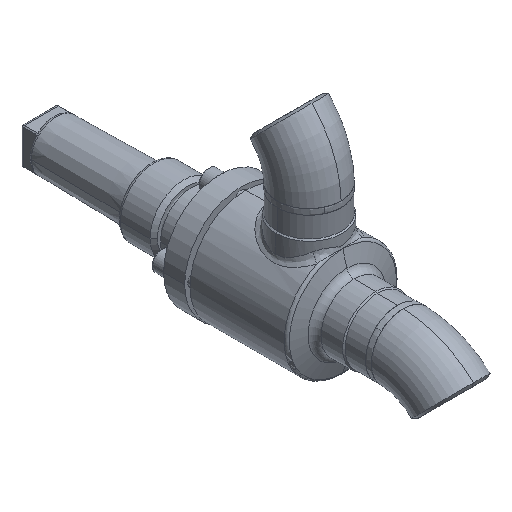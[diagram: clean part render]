
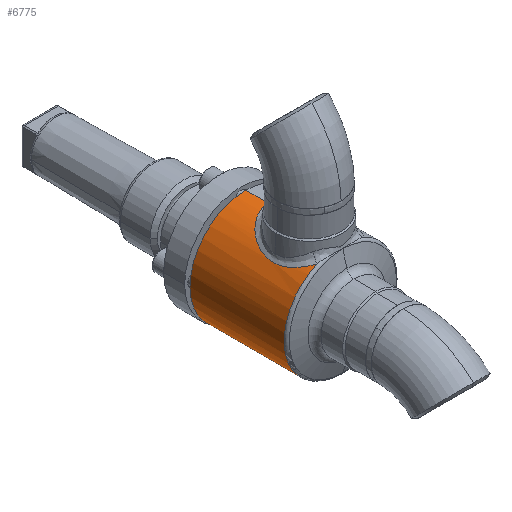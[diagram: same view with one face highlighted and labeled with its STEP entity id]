
A CAD part, isometric view. The second image highlights one B-rep face of the part: STEP entity #6775.
In plain terms, the highlighted cylindrical face has radius 37 mm (diameter 74 mm), a partial arc.
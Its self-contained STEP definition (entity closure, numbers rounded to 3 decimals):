
#16795 = ORIENTED_EDGE ( 'NONE', *, *, #16118, .F. ) ;
#922 = CIRCLE ( 'NONE', #923, 37. ) ;
#923 = AXIS2_PLACEMENT_3D ( 'NONE', #924, #925, #926 ) ;
#924 = CARTESIAN_POINT ( 'NONE',  ( 0., 0., 0. ) ) ;
#925 = DIRECTION ( 'NONE',  ( 0., 1., 0. ) ) ;
#926 = DIRECTION ( 'NONE',  ( 0., 0., 1. ) ) ;
#17746 = ORIENTED_EDGE ( 'NONE', *, *, #10806, .T. ) ;
#1660 = LINE ( 'NONE', #1679, #1680 ) ;
#1679 = CARTESIAN_POINT ( 'NONE',  ( 0., -68., 37. ) ) ;
#1680 = VECTOR ( 'NONE', #1681, 1000. ) ;
#1681 = DIRECTION ( 'NONE',  ( 0., 1., 0. ) ) ;
#18702 = EDGE_CURVE ( 'NONE', #20332, #10407, #10041, .T. ) ;
#2876 = CARTESIAN_POINT ( 'NONE',  ( 0., 0., 37. ) ) ;
#2980 = VERTEX_POINT ( 'NONE', #20270 ) ;
#19377 = ORIENTED_EDGE ( 'NONE', *, *, #18702, .T. ) ;
#20270 = CARTESIAN_POINT ( 'NONE',  ( 0., -62.446, -37. ) ) ;
#20306 = CARTESIAN_POINT ( 'NONE',  ( -15.535, -62.446, 33.581 ) ) ;
#20332 = VERTEX_POINT ( 'NONE', #20306 ) ;
#20586 = CIRCLE ( 'NONE', #20587, 37. ) ;
#20587 = AXIS2_PLACEMENT_3D ( 'NONE', #20588, #20589, #20609 ) ;
#20588 = CARTESIAN_POINT ( 'NONE',  ( 0., -62.446, 0. ) ) ;
#20589 = DIRECTION ( 'NONE',  ( 0., 1., 0. ) ) ;
#20609 = DIRECTION ( 'NONE',  ( 0., 0., -1. ) ) ;
#20745 = EDGE_CURVE ( 'NONE', #2980, #20332, #20586, .T. ) ;
#21419 = ORIENTED_EDGE ( 'NONE', *, *, #20745, .T. ) ;
#5389 = ORIENTED_EDGE ( 'NONE', *, *, #32322, .F. ) ;
#6335 = EDGE_LOOP ( 'NONE', ( #5389, #21419, #19377, #17746, #16795 ) ) ;
#6775 = ADVANCED_FACE ( 'NONE', ( #25911 ), #25932, .T. ) ;
#24408 = CARTESIAN_POINT ( 'NONE',  ( 0., 0., -37. ) ) ;
#25126 = LINE ( 'NONE', #25127, #25128 ) ;
#25127 = CARTESIAN_POINT ( 'NONE',  ( 0., -68., -37. ) ) ;
#25128 = VECTOR ( 'NONE', #25129, 1000. ) ;
#25129 = DIRECTION ( 'NONE',  ( 0., 1., 0. ) ) ;
#25911 = FACE_OUTER_BOUND ( 'NONE', #6335, .T. ) ;
#25932 = CYLINDRICAL_SURFACE ( 'NONE', #25933, 37. ) ;
#25933 = AXIS2_PLACEMENT_3D ( 'NONE', #25934, #25935, #25936 ) ;
#25934 = CARTESIAN_POINT ( 'NONE',  ( 0., -68., 0. ) ) ;
#25935 = DIRECTION ( 'NONE',  ( 0., 1., 0. ) ) ;
#25936 = DIRECTION ( 'NONE',  ( 0., 0., 1. ) ) ;
#10041 = B_SPLINE_CURVE_WITH_KNOTS ( 'NONE', 3,
 ( #10042, #10043, #10044, #10045, #10046, #10047, #10048, #10049, #10050, #10051, #10052, #10053, #10073, #10074, #10075, #10076, #10077, #10078, #10079, #10080, #10081, #10082, #10083, #10084, #10085, #10086, #10087, #10088, #10105, #10106, #10107, #10108, #10109, #10110, #10111, #10112, #10113, #10114, #10115, #10116, #10117, #10118, #10119, #10120, #10138, #10139, #10140, #10141 ),
 .UNSPECIFIED., .F., .F.,
 ( 4, 2, 2, 2, 2, 2, 2, 2, 2, 2, 2, 2, 2, 2, 2, 2, 2, 2, 2, 2, 2, 2, 2, 4 ),
 ( 0., 0.004, 0.008, 0.01, 0.012, 0.016, 0.018, 0.02, 0.024, 0.026, 0.028, 0.03, 0.032, 0.036, 0.04, 0.042, 0.044, 0.048, 0.05, 0.052, 0.056, 0.058, 0.06, 0.064 ),
 .UNSPECIFIED. ) ;
#10042 = CARTESIAN_POINT ( 'NONE',  ( -15.535, -62.446, 33.581 ) ) ;
#10043 = CARTESIAN_POINT ( 'NONE',  ( -16.452, -61.548, 33.157 ) ) ;
#10044 = CARTESIAN_POINT ( 'NONE',  ( -17.286, -60.594, 32.725 ) ) ;
#10045 = CARTESIAN_POINT ( 'NONE',  ( -18.811, -58.577, 31.873 ) ) ;
#10046 = CARTESIAN_POINT ( 'NONE',  ( -19.502, -57.514, 31.452 ) ) ;
#10047 = CARTESIAN_POINT ( 'NONE',  ( -20.434, -55.835, 30.848 ) ) ;
#10048 = CARTESIAN_POINT ( 'NONE',  ( -20.728, -55.259, 30.65 ) ) ;
#10049 = CARTESIAN_POINT ( 'NONE',  ( -21.277, -54.088, 30.272 ) ) ;
#10050 = CARTESIAN_POINT ( 'NONE',  ( -21.531, -53.494, 30.092 ) ) ;
#10051 = CARTESIAN_POINT ( 'NONE',  ( -22.233, -51.685, 29.581 ) ) ;
#10052 = CARTESIAN_POINT ( 'NONE',  ( -22.624, -50.442, 29.28 ) ) ;
#10053 = CARTESIAN_POINT ( 'NONE',  ( -23.09, -48.518, 28.912 ) ) ;
#10073 = CARTESIAN_POINT ( 'NONE',  ( -23.225, -47.864, 28.803 ) ) ;
#10074 = CARTESIAN_POINT ( 'NONE',  ( -23.453, -46.548, 28.618 ) ) ;
#10075 = CARTESIAN_POINT ( 'NONE',  ( -23.545, -45.887, 28.542 ) ) ;
#10076 = CARTESIAN_POINT ( 'NONE',  ( -23.756, -43.897, 28.367 ) ) ;
#10077 = CARTESIAN_POINT ( 'NONE',  ( -23.81, -42.56, 28.321 ) ) ;
#10078 = CARTESIAN_POINT ( 'NONE',  ( -23.758, -40.538, 28.365 ) ) ;
#10079 = CARTESIAN_POINT ( 'NONE',  ( -23.718, -39.862, 28.398 ) ) ;
#10080 = CARTESIAN_POINT ( 'NONE',  ( -23.596, -38.528, 28.5 ) ) ;
#10081 = CARTESIAN_POINT ( 'NONE',  ( -23.513, -37.867, 28.569 ) ) ;
#10082 = CARTESIAN_POINT ( 'NONE',  ( -23.304, -36.555, 28.739 ) ) ;
#10083 = CARTESIAN_POINT ( 'NONE',  ( -23.179, -35.905, 28.84 ) ) ;
#10084 = CARTESIAN_POINT ( 'NONE',  ( -22.886, -34.615, 29.073 ) ) ;
#10085 = CARTESIAN_POINT ( 'NONE',  ( -22.718, -33.974, 29.205 ) ) ;
#10086 = CARTESIAN_POINT ( 'NONE',  ( -22.153, -32.08, 29.639 ) ) ;
#10087 = CARTESIAN_POINT ( 'NONE',  ( -21.7, -30.866, 29.975 ) ) ;
#10088 = CARTESIAN_POINT ( 'NONE',  ( -20.645, -28.526, 30.712 ) ) ;
#10105 = CARTESIAN_POINT ( 'NONE',  ( -20.043, -27.4, 31.112 ) ) ;
#10106 = CARTESIAN_POINT ( 'NONE',  ( -19.02, -25.773, 31.74 ) ) ;
#10107 = CARTESIAN_POINT ( 'NONE',  ( -18.66, -25.243, 31.953 ) ) ;
#10108 = CARTESIAN_POINT ( 'NONE',  ( -17.908, -24.217, 32.381 ) ) ;
#10109 = CARTESIAN_POINT ( 'NONE',  ( -17.515, -23.72, 32.595 ) ) ;
#10110 = CARTESIAN_POINT ( 'NONE',  ( -16.284, -22.274, 33.237 ) ) ;
#10111 = CARTESIAN_POINT ( 'NONE',  ( -15.395, -21.372, 33.662 ) ) ;
#10112 = CARTESIAN_POINT ( 'NONE',  ( -13.943, -20.115, 34.276 ) ) ;
#10113 = CARTESIAN_POINT ( 'NONE',  ( -13.437, -19.71, 34.478 ) ) ;
#10114 = CARTESIAN_POINT ( 'NONE',  ( -12.398, -18.947, 34.865 ) ) ;
#10115 = CARTESIAN_POINT ( 'NONE',  ( -11.864, -18.588, 35.051 ) ) ;
#10116 = CARTESIAN_POINT ( 'NONE',  ( -10.215, -17.575, 35.581 ) ) ;
#10117 = CARTESIAN_POINT ( 'NONE',  ( -9.054, -16.989, 35.897 ) ) ;
#10118 = CARTESIAN_POINT ( 'NONE',  ( -7.207, -16.258, 36.297 ) ) ;
#10119 = CARTESIAN_POINT ( 'NONE',  ( -6.575, -16.041, 36.417 ) ) ;
#10120 = CARTESIAN_POINT ( 'NONE',  ( -5.29, -15.666, 36.626 ) ) ;
#10138 = CARTESIAN_POINT ( 'NONE',  ( -4.64, -15.508, 36.714 ) ) ;
#10139 = CARTESIAN_POINT ( 'NONE',  ( -2.677, -15.129, 36.926 ) ) ;
#10140 = CARTESIAN_POINT ( 'NONE',  ( -1.349, -15., 37. ) ) ;
#10141 = CARTESIAN_POINT ( 'NONE',  ( 0., -15., 37. ) ) ;
#10407 = VERTEX_POINT ( 'NONE', #26936 ) ;
#26936 = CARTESIAN_POINT ( 'NONE',  ( 0., -15., 37. ) ) ;
#10806 = EDGE_CURVE ( 'NONE', #10407, #12441, #1660, .T. ) ;
#12441 = VERTEX_POINT ( 'NONE', #2876 ) ;
#31911 = VERTEX_POINT ( 'NONE', #24408 ) ;
#32322 = EDGE_CURVE ( 'NONE', #2980, #31911, #25126, .T. ) ;
#16118 = EDGE_CURVE ( 'NONE', #31911, #12441, #922, .T. ) ;
